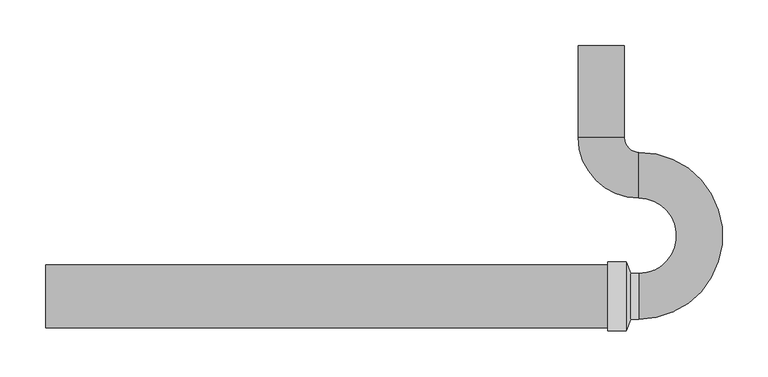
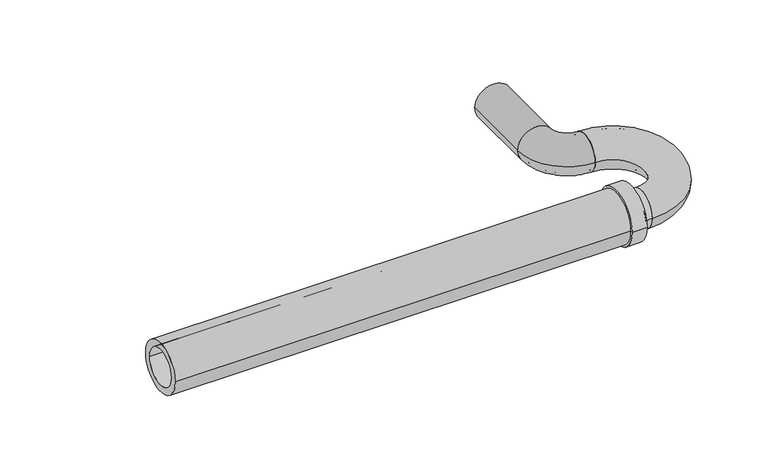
"""IFC4 building model written with IfcOpenShell, lengths in millimetres: pipe fitting geometry, Superdrain Trap : Superdrain Trap."""

from ifc_helpers import new_model, si_unit, point, frame, origin, origin_2d, place, context, project, spatial, polyline, circle_curve, ellipse_curve, trimmed, segment, composite_curve, outline, extrude, source, transform, mapped, element, save
from ifc_brep_helpers import plane_surface, cylinder_surface, revolved_surface, advanced_brep


def pipe_fitting_37d2b716(model_context):
    return source(origin(), model_context, "Body", "SolidModel", [
        advanced_brep(
        [(41.0, 25.0, 0.0), (41.0, -25.0, 0.0), (32.0, -25.0, 0.0), (32.0, 25.0, 0.0), (41.0, 22.0, 0.0), (41.0, -22.0, 0.0), (32.0, 22.0, 0.0), (32.0, -22.0, 0.0), (27.0, 34.5, 0.0), (27.0, -34.5, 0.0), (7.0, 34.5, 0.0), (7.0, -34.5, 0.0), (7.0, 37.5, 0.0), (7.0, -37.5, 0.0), (27.0, 37.5, 0.0), (27.0, -37.5, 0.0)],
        [
            (0, 1, circle_curve(frame((41.0, 0.0, 0.0), z_axis=(-1.0, 0.0, 0.0), x_axis=(0.0, -1.0, 0.0)), 25.0)),
            (1, 2),
            (2, 3, circle_curve(frame((32.0, 0.0, 0.0), z_axis=(1.0, 0.0, 0.0), x_axis=(0.0, -1.0, 0.0)), 25.0)),
            (3, 0),
            (1, 0, circle_curve(frame((41.0, 0.0, 0.0), z_axis=(-1.0, 0.0, 0.0), x_axis=(0.0, -1.0, 0.0)), 25.0)),
            (3, 2, circle_curve(frame((32.0, 0.0, 0.0), z_axis=(1.0, 0.0, 0.0), x_axis=(0.0, -1.0, 0.0)), 25.0)),
            (4, 5, circle_curve(frame((41.0, 0.0, 0.0), z_axis=(-1.0, 0.0, 0.0), x_axis=(0.0, -1.0, 0.0)), 22.0)),
            (5, 1),
            (0, 4),
            (5, 4, circle_curve(frame((41.0, 0.0, 0.0), z_axis=(-1.0, 0.0, 0.0), x_axis=(0.0, -1.0, 0.0)), 22.0)),
            (6, 7, circle_curve(frame((32.0, 0.0, 0.0), z_axis=(-1.0, 0.0, 0.0), x_axis=(0.0, -1.0, 0.0)), 22.0)),
            (7, 5),
            (4, 6),
            (7, 6, circle_curve(frame((32.0, 0.0, 0.0), z_axis=(-1.0, 0.0, 0.0), x_axis=(0.0, -1.0, 0.0)), 22.0)),
            (8, 9, circle_curve(frame((27.0, 0.0, 0.0), z_axis=(-1.0, 0.0, 0.0), x_axis=(0.0, -1.0, 0.0)), 34.5)),
            (9, 7),
            (6, 8),
            (9, 8, circle_curve(frame((27.0, 0.0, 0.0), z_axis=(-1.0, 0.0, 0.0), x_axis=(0.0, -1.0, 0.0)), 34.5)),
            (10, 11, circle_curve(frame((7.0, 0.0, 0.0), z_axis=(-1.0, 0.0, 0.0), x_axis=(0.0, -1.0, 0.0)), 34.5)),
            (11, 9),
            (8, 10),
            (11, 10, circle_curve(frame((7.0, 0.0, 0.0), z_axis=(-1.0, 0.0, 0.0), x_axis=(0.0, -1.0, 0.0)), 34.5)),
            (12, 13, circle_curve(frame((7.0, 0.0, 0.0), z_axis=(-1.0, 0.0, 0.0), x_axis=(0.0, -1.0, 0.0)), 37.5)),
            (13, 11),
            (10, 12),
            (13, 12, circle_curve(frame((7.0, 0.0, 0.0), z_axis=(-1.0, 0.0, 0.0), x_axis=(0.0, -1.0, 0.0)), 37.5)),
            (14, 15, circle_curve(frame((27.0, 0.0, 0.0), z_axis=(-1.0, 0.0, 0.0), x_axis=(0.0, -1.0, 0.0)), 37.5)),
            (15, 13),
            (12, 14),
            (15, 14, circle_curve(frame((27.0, 0.0, 0.0), z_axis=(-1.0, 0.0, 0.0), x_axis=(0.0, -1.0, 0.0)), 37.5)),
            (2, 15),
            (14, 3),
        ],
        [
            cylinder_surface(frame((76.0, 0.0, 0.0), z_axis=(1.0, 0.0, 0.0), x_axis=(0.0, -1.0, 0.0)), 25.0),
            plane_surface(frame((41.0, 0.0, 0.0), z_axis=(1.0, 0.0, 0.0), x_axis=(0.0, -1.0, 0.0))),
            revolved_surface(polyline([(41.0, -22.0, 0.0), (32.0, -22.0, 0.0)]), (76.0, 0.0, 0.0), (1.0, 0.0, 0.0)),
            revolved_surface(polyline([(32.0, -22.0, 0.0), (27.0, -34.5, 0.0)]), (76.0, 0.0, 0.0), (1.0, 0.0, 0.0)),
            revolved_surface(polyline([(27.0, -34.5, 0.0), (7.0, -34.5, 0.0)]), (76.0, 0.0, 0.0), (1.0, 0.0, 0.0)),
            plane_surface(frame((7.0, 0.0, 0.0), z_axis=(-1.0, 0.0, 0.0), x_axis=(0.0, -1.0, 0.0))),
            cylinder_surface(frame((76.0, 0.0, 0.0), z_axis=(1.0, 0.0, 0.0), x_axis=(0.0, -1.0, 0.0)), 37.5),
            revolved_surface(polyline([(27.0, -37.5, 0.0), (32.0, -25.0, 0.0)]), (76.0, 0.0, 0.0), (1.0, 0.0, 0.0)),
        ],
        [
            (0, [[1, 2, 3, 4]]),
            (0, [[5, -4, 6, -2]]),
            (1, [[7, 8, -1, 9]]),
            (1, [[10, -9, -5, -8]]),
            (2, [[11, 12, -7, 13]]),
            (2, [[14, -13, -10, -12]]),
            (3, [[15, 16, -11, 17]]),
            (3, [[18, -17, -14, -16]]),
            (4, [[19, 20, -15, 21]]),
            (4, [[22, -21, -18, -20]]),
            (5, [[23, 24, -19, 25]]),
            (5, [[26, -25, -22, -24]]),
            (6, [[27, 28, -23, 29]]),
            (6, [[30, -29, -26, -28]]),
            (7, [[-3, 31, -27, 32]]),
            (7, [[-6, -32, -30, -31]]),
        ],
    ),
        advanced_brep(
        [(41.0, 107.0, 0.0), (41.0, 157.0, 0.0), (41.0, 110.0, 0.0), (41.0, 154.0, 0.0), (41.0, 25.0, 0.0), (41.0, -25.0, 0.0), (41.0, 22.0, 0.0), (41.0, -22.0, 0.0)],
        [
            (0, 1, circle_curve(frame((41.0, 132.0, 0.0), z_axis=(-1.0, 0.0, 0.0), x_axis=(0.0, 1.0, 0.0)), 25.0)),
            (1, 0, circle_curve(frame((41.0, 132.0, 0.0), z_axis=(-1.0, 0.0, 0.0), x_axis=(0.0, 1.0, 0.0)), 25.0)),
            (2, 3, circle_curve(frame((41.0, 132.0, 0.0), z_axis=(1.0, 0.0, 0.0), x_axis=(0.0, 1.0, 0.0)), 22.0)),
            (3, 2, circle_curve(frame((41.0, 132.0, 0.0), z_axis=(1.0, 0.0, 0.0), x_axis=(0.0, 1.0, 0.0)), 22.0)),
            (4, 5, circle_curve(frame((41.0, 0.0, 0.0), z_axis=(-1.0, 0.0, 0.0), x_axis=(0.0, -1.0, 0.0)), 25.0)),
            (5, 4, circle_curve(frame((41.0, 0.0, 0.0), z_axis=(-1.0, 0.0, 0.0), x_axis=(0.0, -1.0, 0.0)), 25.0)),
            (6, 7, circle_curve(frame((41.0, 0.0, 0.0), z_axis=(1.0, 0.0, 0.0), x_axis=(0.0, -1.0, 0.0)), 22.0)),
            (7, 6, circle_curve(frame((41.0, 0.0, 0.0), z_axis=(1.0, 0.0, 0.0), x_axis=(0.0, -1.0, 0.0)), 22.0)),
            (7, 3, circle_curve(frame((41.0, 66.0, 0.0), z_axis=(0.0, 0.0, 1.0), x_axis=(0.0, 1.0, 0.0)), 88.0)),
            (2, 6, circle_curve(frame((41.0, 66.0, 0.0), z_axis=(0.0, 0.0, -1.0), x_axis=(0.0, 1.0, 0.0)), 44.0)),
            (5, 1, circle_curve(frame((41.0, 66.0, 0.0), z_axis=(0.0, 0.0, 1.0), x_axis=(0.0, 1.0, 0.0)), 91.0)),
            (0, 4, circle_curve(frame((41.0, 66.0, 0.0), z_axis=(0.0, 0.0, -1.0), x_axis=(0.0, 1.0, 0.0)), 41.0)),
        ],
        [
            plane_surface(frame((41.0, 132.0, 0.0), z_axis=(-1.0, 0.0, 0.0), x_axis=(0.0, 0.0, 1.0))),
            plane_surface(frame((41.0, 0.0, 0.0), z_axis=(-1.0, 0.0, 0.0), x_axis=(0.0, 0.0, 1.0))),
            revolved_surface(trimmed(ellipse_curve(frame((41.0, 132.0, 0.0), z_axis=(1.0, 0.0, 0.0), x_axis=(0.0, 1.0, 0.0)), 22.0, 22.0), [point((41.0, 110.0, 0.0))], [point((41.0, 154.0, 0.0))], True, "CARTESIAN"), (41.0, 66.0, 0.0), (0.0, 0.0, -1.0)),
            revolved_surface(trimmed(ellipse_curve(frame((41.0, 132.0, 0.0), z_axis=(1.0, 0.0, 0.0), x_axis=(0.0, 1.0, 0.0)), 22.0, 22.0), [point((41.0, 154.0, 0.0))], [point((41.0, 110.0, 0.0))], True, "CARTESIAN"), (41.0, 66.0, 0.0), (0.0, 0.0, -1.0)),
            revolved_surface(trimmed(ellipse_curve(frame((41.0, 132.0, 0.0), z_axis=(-1.0, 0.0, 0.0), x_axis=(0.0, 1.0, 0.0)), 25.0, 25.0), [point((41.0, 107.0, 0.0))], [point((41.0, 157.0, 0.0))], True, "CARTESIAN"), (41.0, 66.0, 0.0), (0.0, 0.0, -1.0)),
            revolved_surface(trimmed(ellipse_curve(frame((41.0, 132.0, 0.0), z_axis=(-1.0, 0.0, 0.0), x_axis=(0.0, 1.0, 0.0)), 25.0, 25.0), [point((41.0, 157.0, 0.0))], [point((41.0, 107.0, 0.0))], True, "CARTESIAN"), (41.0, 66.0, 0.0), (0.0, 0.0, -1.0)),
        ],
        [
            (0, [[1, 2], [3, 4]]),
            (1, [[5, 6], [7, 8]]),
            (2, [[9, -3, 10, -8]]),
            (3, [[-10, -4, -9, -7]]),
            (4, [[11, -1, 12, -6]]),
            (5, [[-12, -2, -11, -5]]),
        ],
    ),
        advanced_brep(
        [(-25.0, 173.0, 0.0), (25.0, 173.0, 0.0), (-22.0, 173.0, 0.0), (22.0, 173.0, 0.0), (41.0, 107.0, 0.0), (41.0, 157.0, 0.0), (41.0, 110.0, 0.0), (41.0, 154.0, 0.0)],
        [
            (0, 1, circle_curve(frame((0.0, 173.0, 0.0), z_axis=(0.0, 1.0, 0.0), x_axis=(1.0, 0.0, 0.0)), 25.0)),
            (1, 0, circle_curve(frame((0.0, 173.0, 0.0), z_axis=(0.0, 1.0, 0.0), x_axis=(1.0, 0.0, 0.0)), 25.0)),
            (2, 3, circle_curve(frame((0.0, 173.0, 0.0), z_axis=(0.0, -1.0, 0.0), x_axis=(1.0, 0.0, 0.0)), 22.0)),
            (3, 2, circle_curve(frame((0.0, 173.0, 0.0), z_axis=(0.0, -1.0, 0.0), x_axis=(1.0, 0.0, 0.0)), 22.0)),
            (4, 5, circle_curve(frame((41.0, 132.0, 0.0), z_axis=(1.0, 0.0, 0.0), x_axis=(0.0, 1.0, 0.0)), 25.0)),
            (5, 4, circle_curve(frame((41.0, 132.0, 0.0), z_axis=(1.0, 0.0, 0.0), x_axis=(0.0, 1.0, 0.0)), 25.0)),
            (6, 7, circle_curve(frame((41.0, 132.0, 0.0), z_axis=(-1.0, 0.0, 0.0), x_axis=(0.0, 1.0, 0.0)), 22.0)),
            (7, 6, circle_curve(frame((41.0, 132.0, 0.0), z_axis=(-1.0, 0.0, 0.0), x_axis=(0.0, 1.0, 0.0)), 22.0)),
            (5, 1, circle_curve(frame((41.0, 173.0, 0.0), z_axis=(0.0, 0.0, -1.0), x_axis=(-1.0, 0.0, 0.0)), 16.0)),
            (0, 4, circle_curve(frame((41.0, 173.0, 0.0), z_axis=(0.0, 0.0, 1.0), x_axis=(-1.0, 0.0, 0.0)), 66.0)),
            (7, 3, circle_curve(frame((41.0, 173.0, 0.0), z_axis=(0.0, 0.0, -1.0), x_axis=(-1.0, 0.0, 0.0)), 19.0)),
            (2, 6, circle_curve(frame((41.0, 173.0, 0.0), z_axis=(0.0, 0.0, 1.0), x_axis=(-1.0, 0.0, 0.0)), 63.0)),
        ],
        [
            plane_surface(frame((0.0, 173.0, 0.0), z_axis=(0.0, 1.0, 0.0), x_axis=(0.0, 0.0, 1.0))),
            plane_surface(frame((41.0, 132.0, 0.0), z_axis=(1.0, 0.0, 0.0), x_axis=(0.0, 0.0, 1.0))),
            revolved_surface(trimmed(ellipse_curve(frame((0.0, 173.0, 0.0), z_axis=(0.0, 1.0, 0.0), x_axis=(1.0, 0.0, 0.0)), 25.0, 25.0), [point((-25.0, 173.0, 0.0))], [point((25.0, 173.0, 0.0))], True, "CARTESIAN"), (41.0, 173.0, 0.0), (0.0, 0.0, 1.0)),
            revolved_surface(trimmed(ellipse_curve(frame((0.0, 173.0, 0.0), z_axis=(0.0, 1.0, 0.0), x_axis=(1.0, 0.0, 0.0)), 25.0, 25.0), [point((25.0, 173.0, 0.0))], [point((-25.0, 173.0, 0.0))], True, "CARTESIAN"), (41.0, 173.0, 0.0), (0.0, 0.0, 1.0)),
            revolved_surface(trimmed(ellipse_curve(frame((0.0, 173.0, 0.0), z_axis=(0.0, -1.0, 0.0), x_axis=(1.0, 0.0, 0.0)), 22.0, 22.0), [point((-22.0, 173.0, 0.0))], [point((22.0, 173.0, 0.0))], True, "CARTESIAN"), (41.0, 173.0, 0.0), (0.0, 0.0, 1.0)),
            revolved_surface(trimmed(ellipse_curve(frame((0.0, 173.0, 0.0), z_axis=(0.0, -1.0, 0.0), x_axis=(1.0, 0.0, 0.0)), 22.0, 22.0), [point((22.0, 173.0, 0.0))], [point((-22.0, 173.0, 0.0))], True, "CARTESIAN"), (41.0, 173.0, 0.0), (0.0, 0.0, 1.0)),
        ],
        [
            (0, [[1, 2], [3, 4]]),
            (1, [[5, 6], [7, 8]]),
            (2, [[9, -1, 10, -6]]),
            (3, [[-10, -2, -9, -5]]),
            (4, [[11, -3, 12, -8]]),
            (5, [[-12, -4, -11, -7]]),
        ],
    ),
        extrude(outline(composite_curve([segment(trimmed(circle_curve(origin_2d(), 34.5), [point((34.5, 0.0))], [point((-34.5, 0.0))], False, "CARTESIAN"), True, "CONTINUOUS"), segment(trimmed(circle_curve(origin_2d(), 34.5), [point((-34.5, 0.0))], [point((34.5, 0.0))], False, "CARTESIAN"), True, "CONTINUOUS")], self_intersect=False), holes=[composite_curve([segment(trimmed(circle_curve(origin_2d(), 25.0), [point((25.0, 0.0))], [point((-25.0, 0.0))], True, "CARTESIAN"), True, "CONTINUOUS"), segment(trimmed(circle_curve(origin_2d(), 25.0), [point((-25.0, 0.0))], [point((25.0, 0.0))], True, "CARTESIAN"), True, "CONTINUOUS")], self_intersect=False)]), frame((-604.5, 0.0, 0.0), z_axis=(1.0, 0.0, 0.0), x_axis=(0.0, 1.0, 0.0)), (0.0, 0.0, 1.0), 611.5),
        extrude(outline(composite_curve([segment(trimmed(circle_curve(origin_2d(), 25.0), [point((0.0, 25.0))], [point((0.0, -25.0))], False, "CARTESIAN"), True, "CONTINUOUS"), segment(trimmed(circle_curve(origin_2d(), 25.0), [point((0.0, -25.0))], [point((0.0, 25.0))], False, "CARTESIAN"), True, "CONTINUOUS")], self_intersect=False), holes=[composite_curve([segment(trimmed(circle_curve(origin_2d(), 22.0), [point((0.0, 22.0))], [point((0.0, -22.0))], True, "CARTESIAN"), True, "CONTINUOUS"), segment(trimmed(circle_curve(origin_2d(), 22.0), [point((0.0, -22.0))], [point((0.0, 22.0))], True, "CARTESIAN"), True, "CONTINUOUS")], self_intersect=False)]), frame((0.0, 173.0, 0.0), z_axis=(0.0, 1.0, 0.0), x_axis=(0.0, 0.0, 1.0)), (0.0, 0.0, 1.0), 100.0),
    ])


if __name__ == "__main__":
    model = new_model("IFC4")
    model_context = context("Model", 3, world=origin())
    ifc_project = project(units=[si_unit("LENGTHUNIT", "METRE", prefix="MILLI")], contexts=[model_context])
    site = spatial("IfcSite", under=ifc_project)
    building = spatial("IfcBuilding", under=site)
    placement = place(None, origin())
    pipe_fitting_shape = pipe_fitting_37d2b716(model_context)
    element("IfcPipeFitting", 1, ObjectType="Superdrain Trap : Superdrain Trap", at=placement, inside=building, context=model_context, shape_type="MappedRepresentation", body=[
        mapped(pipe_fitting_shape, transform((0.0, 0.0, 0.0), x_axis=(1.0, 0.0, 0.0), y_axis=(0.0, 1.0, 0.0), z_axis=(0.0, 0.0, 1.0))),
    ])
    save(model, "model.ifc")
